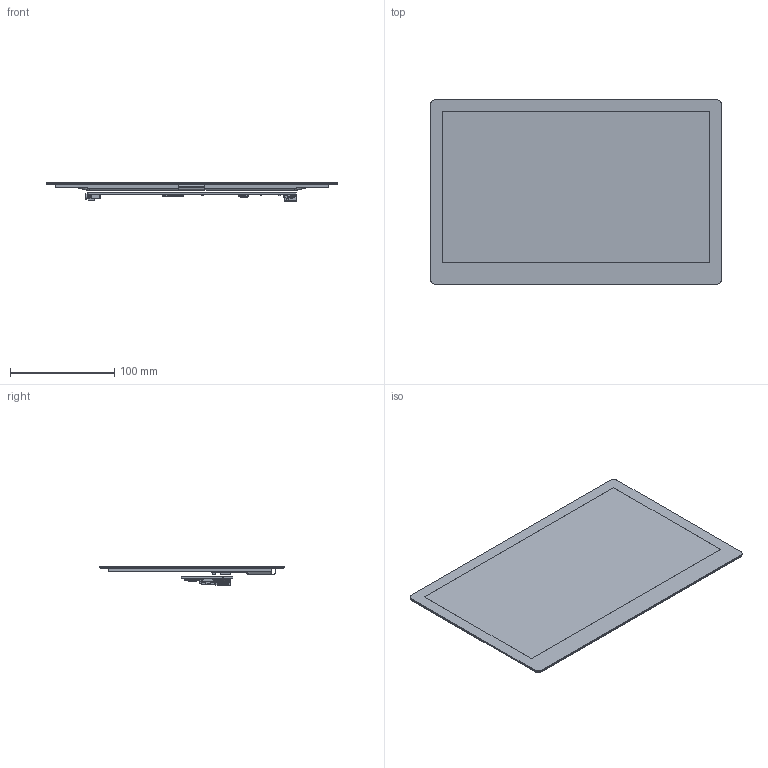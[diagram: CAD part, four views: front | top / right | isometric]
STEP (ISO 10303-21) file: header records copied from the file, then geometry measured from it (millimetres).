
FILE_DESCRIPTION((''),'2;1');
FILE_NAME('11_6INCH-HDMI-LCD-0001_ASM','2026-03-04T10:07:04',('ag'),(''),'CREO PARAMETRIC BY PTC INC, 2021063','CREO PARAMETRIC BY PTC INC, 2021063','');
FILE_SCHEMA(('CONFIG_CONTROL_DESIGN','SHAPE_APPEARANCE_LAYERS_GROUPS'));
Products named in the file (203): 11_6INCH-LCD-TP_2; 11_6INCH-HDMI-LCD-H_ASM_2_ASM; 15_6HP-CAPQLED-PCBA_1_1; 15_6HP-CAPQLED-PCBA_1_2; 15_6HP-CAPQLED-PCBA_1_3; 15_6HP-CAPQLED-PCBA_1_4; 15_6HP-CAPQLED-PCBA_1_5; 15_6HP-CAPQLED-PCBA_1_6; 15_6HP-CAPQLED-PCBA_1_7; 15_6HP-CAPQLED-PCBA_1_8; 15_6HP-CAPQLED-PCBA_1_9; 15_6HP-CAPQLED-PCBA_1_10; 15_6HP-CAPQLED-PCBA_1_11; 15_6HP-CAPQLED-PCBA_1_12; 15_6HP-CAPQLED-PCBA_1_13; 15_6HP-CAPQLED-PCBA_1_14; 15_6HP-CAPQLED-PCBA_1_15; 15_6HP-CAPQLED-PCBA_1_16; 15_6HP-CAPQLED-PCBA_1_17; 15_6HP-CAPQLED-PCBA_1_18; 15_6HP-CAPQLED-PCBA_1_19; 15_6HP-CAPQLED-PCBA_1_20; 15_6HP-CAPQLED-PCBA_1_21; 15_6HP-CAPQLED-PCBA_1_22; 15_6HP-CAPQLED-PCBA_1_23; 15_6HP-CAPQLED-PCBA_1_24; 15_6HP-CAPQLED-PCBA_1_25; 15_6HP-CAPQLED-PCBA_1_26; 15_6HP-CAPQLED-PCBA_1_27; 15_6HP-CAPQLED-PCBA_1_28; 15_6HP-CAPQLED-PCBA_1_29; 15_6HP-CAPQLED-PCBA_1_30; 15_6HP-CAPQLED-PCBA_1_31; 15_6HP-CAPQLED-PCBA_1_32; 15_6HP-CAPQLED-PCBA_1_33; 15_6HP-CAPQLED-PCBA_1_34; 15_6HP-CAPQLED-PCBA_1_35; 15_6HP-CAPQLED-PCBA_1_36; 15_6HP-CAPQLED-PCBA_1_37; 15_6HP-CAPQLED-PCBA_1_38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
Assembly tree (202 placements, depth 4):
  11_6INCH-HDMI-LCD-0001_ASM
    11_6INCH-HDMI-LCD-H_ASM_2_ASM
      11_6INCH-LCD-TP_2
    15_6HP-CAPQLED-PCBA_1_ASM
      15_6HP-CAPQLED-PCBA_1_1
      15_6HP-CAPQLED-PCBA_1_2
      15_6HP-CAPQLED-PCBA_1_3
      15_6HP-CAPQLED-PCBA_1_4
      15_6HP-CAPQLED-PCBA_1_5
      15_6HP-CAPQLED-PCBA_1_6
      15_6HP-CAPQLED-PCBA_1_7
      15_6HP-CAPQLED-PCBA_1_8
      15_6HP-CAPQLED-PCBA_1_9
      15_6HP-CAPQLED-PCBA_1_10
      15_6HP-CAPQLED-PCBA_1_11
      15_6HP-CAPQLED-PCBA_1_12
      15_6HP-CAPQLED-PCBA_1_13
      15_6HP-CAPQLED-PCBA_1_14
      15_6HP-CAPQLED-PCBA_1_15
      15_6HP-CAPQLED-PCBA_1_16
      15_6HP-CAPQLED-PCBA_1_17
      15_6HP-CAPQLED-PCBA_1_18
      15_6HP-CAPQLED-PCBA_1_19
      15_6HP-CAPQLED-PCBA_1_20
      15_6HP-CAPQLED-PCBA_1_21
      15_6HP-CAPQLED-PCBA_1_22
      15_6HP-CAPQLED-PCBA_1_23
      15_6HP-CAPQLED-PCBA_1_24
      15_6HP-CAPQLED-PCBA_1_25
      15_6HP-CAPQLED-PCBA_1_26
      15_6HP-CAPQLED-PCBA_1_27
      15_6HP-CAPQLED-PCBA_1_28
      15_6HP-CAPQLED-PCBA_1_29
      15_6HP-CAPQLED-PCBA_1_30
      15_6HP-CAPQLED-PCBA_1_31
      15_6HP-CAPQLED-PCBA_1_32
      15_6HP-CAPQLED-PCBA_1_33
      15_6HP-CAPQLED-PCBA_1_34
      15_6HP-CAPQLED-PCBA_1_35
      15_6HP-CAPQLED-PCBA_1_36
      15_6HP-CAPQLED-PCBA_1_37
      15_6HP-CAPQLED-PCBA_1_38
      15_6HP-CAPQLED-PCBA_1_39
      15_6HP-CAPQLED-PCBA_1_40
      15_6HP-CAPQLED-PCBA_1_41
      15_6HP-CAPQLED-PCBA_1_42
      15_6HP-CAPQLED-PCBA_1_43
      15_6HP-CAPQLED-PCBA_1_44
      15_6HP-CAPQLED-PCBA_1_45
      15_6HP-CAPQLED-PCBA_1_46
      15_6HP-CAPQLED-PCBA_1_47
      15_6HP-CAPQLED-PCBA_1_48
      15_6HP-CAPQLED-PCBA_1_49
      15_6HP-CAPQLED-PCBA_1_50
      15_6HP-CAPQLED-PCBA_1_51
      15_6HP-CAPQLED-PCBA_1_52
      15_6HP-CAPQLED-PCBA_1_53
      15_6HP-CAPQLED-PCBA_1_54
      15_6HP-CAPQLED-PCBA_1_55
      15_6HP-CAPQLED-PCBA_1_56
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Bounding box: 279.5 x 177.09 x 17.88 mm (x, y, z)
Volume: 212018.6 mm3; surface area: 209671.4 mm2
Topology: 191 solids, 205 shells, 4447 faces, 12328 edges, 8283 vertices
Faces by surface type: plane 3743, cylinder 628, extrusion 39, sphere 13, cone 12, torus 6, bspline 6
Entity records: 168140 total; most frequent: CARTESIAN_POINT 28832, ORIENTED_EDGE 24624, DIRECTION 23294, EDGE_CURVE 12314, VECTOR 10794, LINE 10755, VERTEX_POINT 8287, AXIS2_PLACEMENT_3D 6250
